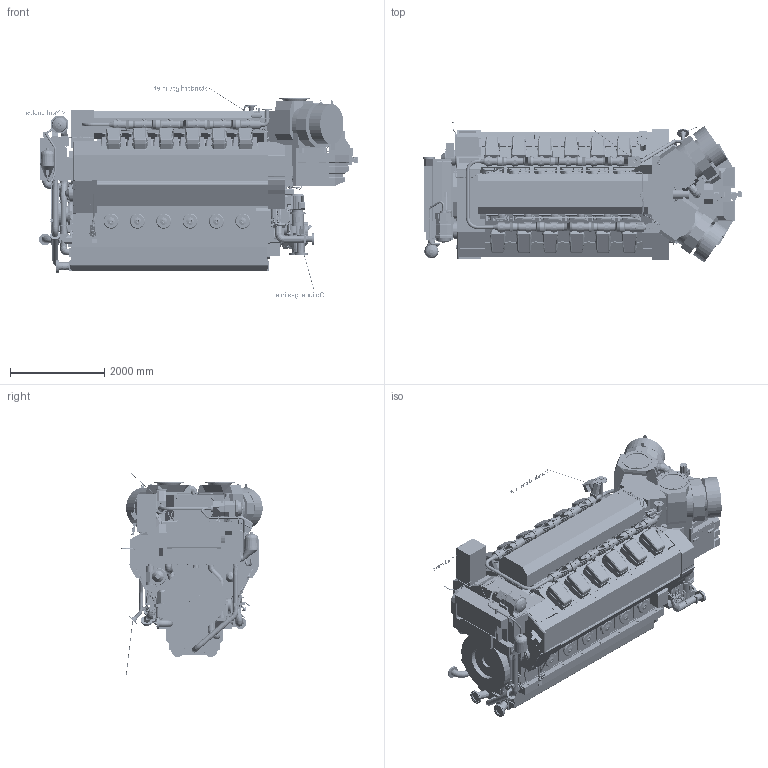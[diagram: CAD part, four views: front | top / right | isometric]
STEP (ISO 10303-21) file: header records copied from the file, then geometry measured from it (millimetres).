
FILE_DESCRIPTION(/* description */ (''),/* implementation_level */ '2;1');
FILE_NAME(/* name */ 'DAAF379495_B.stp',/* time_stamp */ '2021-12-13T10:50:03+02:00',/* author */ (''),/* organization */ (''),/* preprocessor_version */ 'ST-DEVELOPER v16.7',/* originating_system */ 'SIEMENS PLM Software NX 1915',/* authorisation */ '');
FILE_SCHEMA (('AUTOMOTIVE_DESIGN { 1 0 10303 214 3 1 1 1 }'));
Products named in the file (78): PABA065852_-; PABA324496_-; PABA089687_-; PAAF087138_-; PAAF074479_-; PAAF090577_-; PAAF087154_-; PABA036926_-; PAAF063634_-; PAAF238216_-; PABA034962_-; PAAF295070_-; PABA001563_-; PABA052452_-; PABA052478_-; PABA052425_-; PABA053684_-; PAAF243684_-; PAAF074389_-; PAAF852803_-; PAAF304653_-; PAAF087001_-; PAAF243666_-; PAAF565855_-; PAAF078239_-; PAAF991059_-; PAAF078077_-; PAAF087123_-; PAAF247464_-; PAAF087117_-; PAAF087083_-; PAAF087113_-; PABA076699_-; PAAF245056_-; PAAF243370_-; PAAF087128_-; PAAF990034_-; PAAF078535_-; PAAF074410_-; PAAF078536_-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
Assembly tree (78 placements, depth 2):
  PABA274578_-
    PABA274494_-
    PAAF695508_-
    PABA053131_-
    PABA002081_-
    PAAF243367_-
    PAAF066761_-
    PAAF688045_-
    PAAF688053_-
    PABA173946_-
    PABA156629_-
    PABA068010_-
    PABA067993_-
    PAAF074393_-
    PAAF078522_-
    PABA001772_-
    PABA002426_-
    PAAF078708_-
    PAAF688051_-
    PABA041040_-
    PAAF243373_-
    PAAF689738_-
    PAAF211478_-
    PAAF427671_-
    PAAF450547_-
    PAAF695507_-
    PABA033164_-
    PAAF066738_-
    PAAF093834_-
    PAAF078635_-
    PAAF077590_-
    PAAF078607_-
    PAAF078553_-
    PAAF077589_-
    PAAF688036_-
    PAAF220774_-
    PAAF221638_-
    PAAF166694_-
    PAAF078536_-
    PAAF074410_-  x2
    PAAF078535_-
    PAAF990034_-
    PAAF087128_-
    PAAF243370_-
    PAAF245056_-
    PABA076699_-
    PAAF087113_-
    PAAF087083_-
    PAAF087117_-
    PAAF247464_-
    PAAF087123_-
    PAAF078077_-
    PAAF991059_-
    PAAF078239_-
    PAAF565855_-
    PAAF243666_-
    PAAF087001_-
    PAAF304653_-
    PAAF852803_-
    PAAF074389_-
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Bounding box: 7054.84 x 3000.14 x 4527 mm (x, y, z)
Volume: 26331349909.6 mm3; surface area: 333203339.9 mm2
Topology: 461 solids, 589 shells, 18070 faces, 43639 edges, 27878 vertices
Faces by surface type: plane 9849, cylinder 4455, bspline 2303, torus 721, extrusion 473, cone 254, revolution 9, sphere 6
Full cylindrical faces by diameter (mm): 0.107 x1, 3.3 x12, 6 x14, 8 x37, 8.5 x1, 8.993 x3, 9 x19, 9.685 x1, 9.69 x1, 10 x21, 11 x19, 11.908 x1, 11.995 x1, 12 x108, 12.6 x2, 13.2 x4, 13.5 x5, 13.6 x2, 14 x63, 14.596 x1, 15 x59, 15.5 x4, 15.6 x1, 15.7 x4, 16 x19, 16.376 x1, 16.658 x1, 17 x2, 17.5 x4, 17.997 x1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
Entity records: 635158 total; most frequent: CARTESIAN_POINT 238374, DIRECTION 77676, ORIENTED_EDGE 77622, EDGE_CURVE 38811, AXIS2_PLACEMENT_3D 27587, VERTEX_POINT 26183, EDGE_LOOP 22709, VECTOR 22493
